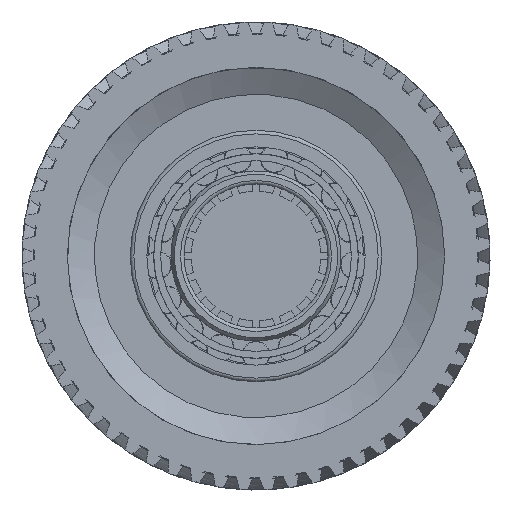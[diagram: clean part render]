
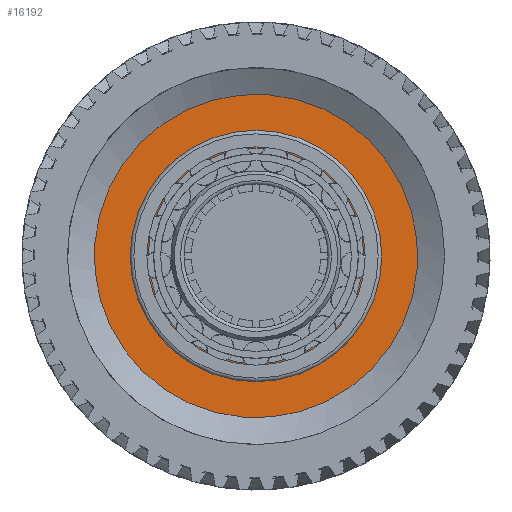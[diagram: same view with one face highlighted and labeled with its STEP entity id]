
A CAD part, left-side view. The second image highlights one B-rep face of the part: STEP entity #16192.
In plain terms, the highlighted planar face has unit normal (-1, 0, 0).
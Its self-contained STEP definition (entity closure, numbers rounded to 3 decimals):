
#782=FACE_BOUND('',#2553,.T.);
#1013=PLANE('',#17830);
#1642=FACE_OUTER_BOUND('',#2552,.T.);
#2552=EDGE_LOOP('',(#13026));
#2553=EDGE_LOOP('',(#13027));
#3204=CIRCLE('',#16968,90.);
#3208=CIRCLE('',#16973,60.);
#6053=VERTEX_POINT('',#24118);
#6057=VERTEX_POINT('',#24128);
#7897=EDGE_CURVE('',#6053,#6053,#3204,.T.);
#7903=EDGE_CURVE('',#6057,#6057,#3208,.T.);
#13026=ORIENTED_EDGE('',*,*,#7897,.T.);
#13027=ORIENTED_EDGE('',*,*,#7903,.T.);
#16192=ADVANCED_FACE('',(#1642,#782),#1013,.T.);
#16968=AXIS2_PLACEMENT_3D('',#24119,#19471,#19472);
#16973=AXIS2_PLACEMENT_3D('',#24130,#19483,#19484);
#17830=AXIS2_PLACEMENT_3D('',#163217,#21209,#21210);
#19471=DIRECTION('center_axis',(-1.,0.,0.));
#19472=DIRECTION('ref_axis',(0.,0.,-1.));
#19483=DIRECTION('center_axis',(1.,0.,0.));
#19484=DIRECTION('ref_axis',(0.,0.,
-1.));
#21209=DIRECTION('center_axis',(-1.,0.,0.));
#21210=DIRECTION('ref_axis',(0.,0.,1.));
#24118=CARTESIAN_POINT('',(15.,52.3,73.244));
#24119=CARTESIAN_POINT('Origin',(15.,0.,0.));
#24128=CARTESIAN_POINT('',(15.,0.,60.));
#24130=CARTESIAN_POINT('Origin',(15.,0.,0.));
#163217=CARTESIAN_POINT('Origin',(15.,90.001,0.));
